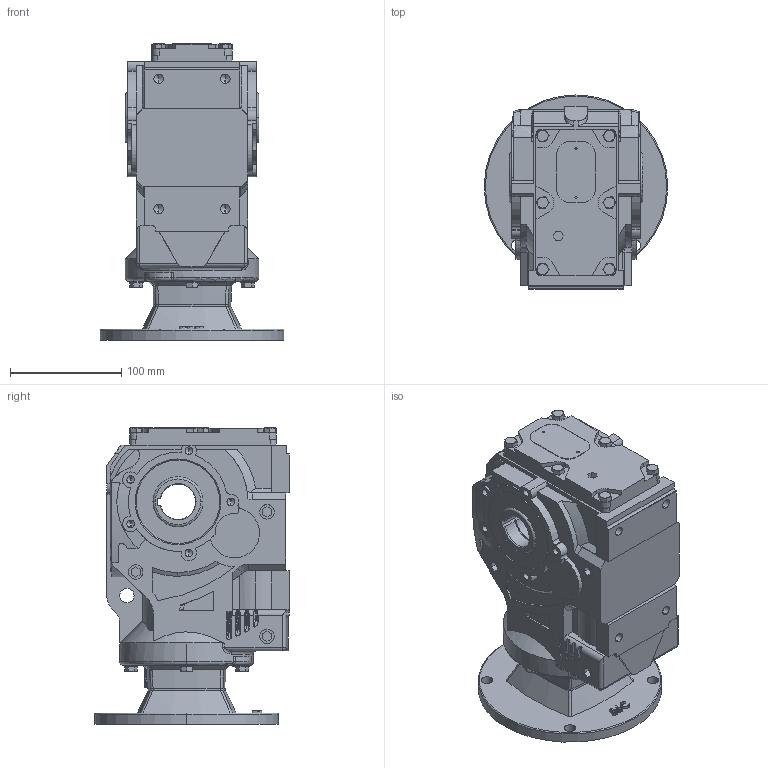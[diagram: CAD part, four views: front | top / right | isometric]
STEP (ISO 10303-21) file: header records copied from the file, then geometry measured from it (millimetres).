
FILE_DESCRIPTION (( 'STEP AP203' ), '1' );
FILE_NAME ('KAN37-56C.STEP', '2022-04-08T07:57:36', ( 'user1' ), ( '' ), 'SwSTEP 2.0', 'SolidWorks 2012', '' );
FILE_SCHEMA (( 'CONFIG_CONTROL_DESIGN' ));
Length unit declared in the file: millimetre
Products named in the file (1): KAN37-56C
Bounding box: 165.1 x 174.75 x 266.5 mm (x, y, z)
Volume: 1405659.4 mm3; surface area: 430055.2 mm2
Topology: 1 solids, 1 shells, 1744 faces, 4731 edges, 3030 vertices
Faces by surface type: plane 661, cylinder 555, cone 210, bspline 173, torus 91, sphere 54
Entity records: 65043 total; most frequent: CARTESIAN_POINT 22655, ORIENTED_EDGE 9278, DIRECTION 8337, EDGE_CURVE 4639, AXIS2_PLACEMENT_3D 3093, VERTEX_POINT 3002, LINE 2151, VECTOR 2151
